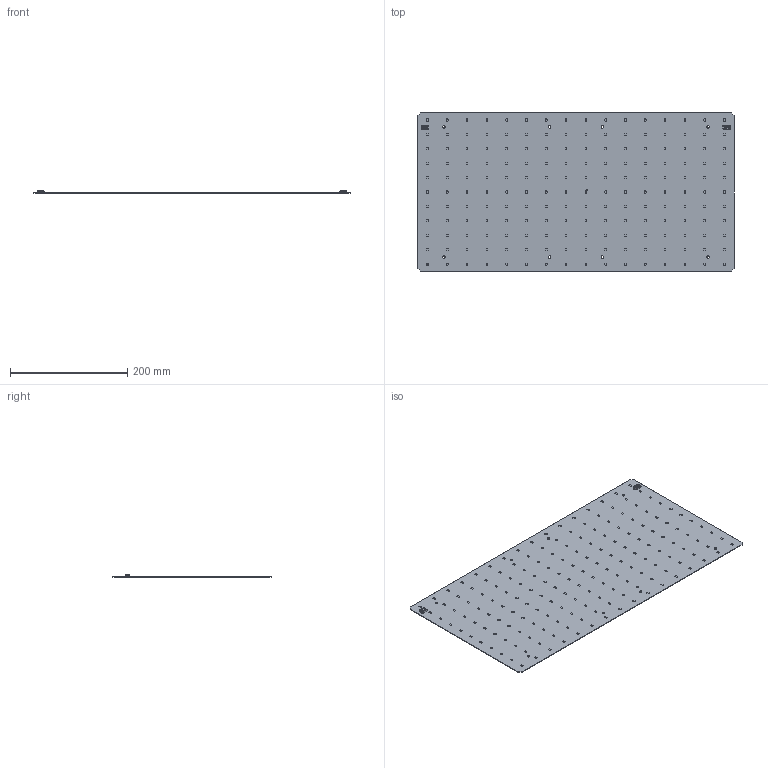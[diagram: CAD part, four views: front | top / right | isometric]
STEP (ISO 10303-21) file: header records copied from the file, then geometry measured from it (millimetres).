
FILE_DESCRIPTION((''),'2;1');
FILE_NAME('16208840_QLE-G5-540X270-ADV','2019-06-03T11:23:56',('bernhard.fink'),(''),'CREO PARAMETRIC BY PTC INC, 2017380','CREO PARAMETRIC BY PTC INC, 2017380','');
FILE_SCHEMA(('AUTOMOTIVE_DESIGN { 1 0 10303 214 1 1 1 1 }'));
Products named in the file (1): 16208840_QLE-G5-540X270-ADV
Bounding box: 540 x 270 x 4.45 mm (x, y, z)
Surface area: 295008.7 mm2 (no closed solid volume)
Topology: 0 solids, 1 shells, 4908 faces, 13875 edges, 9155 vertices
Faces by surface type: plane 3668, cylinder 934, bspline 200, cone 60, torus 30, sphere 16
Entity records: 206997 total; most frequent: CARTESIAN_POINT 38155, ORIENTED_EDGE 27746, DIRECTION 24308, PRESENTATION_STYLE_ASSIGNMENT 13882, STYLED_ITEM 13874, CURVE_STYLE 13873, EDGE_CURVE 13873, VECTOR 11350
